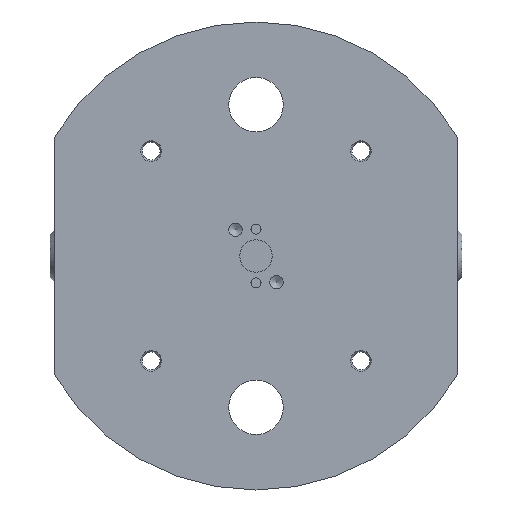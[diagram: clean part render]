
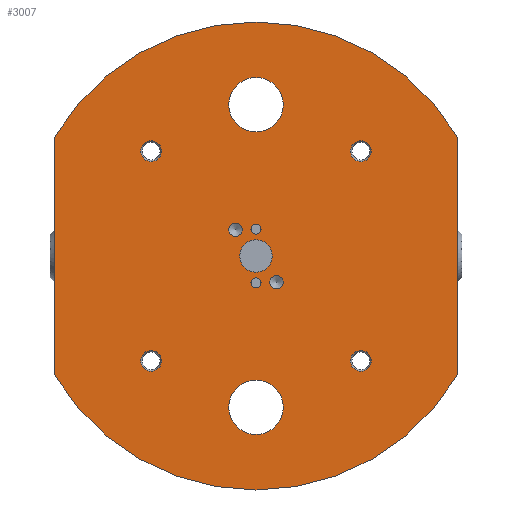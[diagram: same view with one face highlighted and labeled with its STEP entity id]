
A CAD part, front view. The second image highlights one B-rep face of the part: STEP entity #3007.
In plain terms, the highlighted planar face has unit normal (0, -1, 0).
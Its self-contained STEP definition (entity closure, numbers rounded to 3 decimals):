
#86 = CARTESIAN_POINT ( 'NONE',  ( 26., 0., 26. ) ) ;
#154 = CARTESIAN_POINT ( 'NONE',  ( -26., 0., 26. ) ) ;
#180 = EDGE_CURVE ( 'NONE', #7596, #7596, #5117, .T. ) ;
#273 = EDGE_LOOP ( 'NONE', ( #1496, #3865, #4658, #6841 ) ) ;
#367 = EDGE_CURVE ( 'NONE', #5221, #5221, #6874, .T. ) ;
#380 = AXIS2_PLACEMENT_3D ( 'NONE', #7181, #4214, #4794 ) ;
#423 = CIRCLE ( 'NONE', #6031, 58. ) ;
#435 = FACE_BOUND ( 'NONE', #3830, .T. ) ;
#446 = DIRECTION ( 'NONE',  ( 0., 0., 1. ) ) ;
#489 = CARTESIAN_POINT ( 'NONE',  ( -50., 0., 29.394 ) ) ;
#532 = AXIS2_PLACEMENT_3D ( 'NONE', #5798, #7503, #446 ) ;
#551 = VECTOR ( 'NONE', #3696, 1000. ) ;
#594 = FACE_BOUND ( 'NONE', #4416, .T. ) ;
#734 = ORIENTED_EDGE ( 'NONE', *, *, #5149, .T. ) ;
#739 = CARTESIAN_POINT ( 'NONE',  ( -26., 0., -26. ) ) ;
#773 = CARTESIAN_POINT ( 'NONE',  ( -5.08, 0., 4.857 ) ) ;
#782 = EDGE_CURVE ( 'NONE', #3944, #3944, #6490, .T. ) ;
#806 = EDGE_LOOP ( 'NONE', ( #6328 ) ) ;
#910 = EDGE_CURVE ( 'NONE', #2251, #2251, #3514, .T. ) ;
#975 = VERTEX_POINT ( 'NONE', #3199 ) ;
#1004 = DIRECTION ( 'NONE',  ( 0., -1., 0. ) ) ;
#1023 = EDGE_LOOP ( 'NONE', ( #4859 ) ) ;
#1069 = ORIENTED_EDGE ( 'NONE', *, *, #910, .T. ) ;
#1100 = DIRECTION ( 'NONE',  ( 0., 1., 0. ) ) ;
#1161 = EDGE_LOOP ( 'NONE', ( #734 ) ) ;
#1214 = EDGE_CURVE ( 'NONE', #2851, #975, #3881, .T. ) ;
#1215 = CARTESIAN_POINT ( 'NONE',  ( 0., 0., 37.5 ) ) ;
#1234 = ORIENTED_EDGE ( 'NONE', *, *, #7347, .F. ) ;
#1306 = CARTESIAN_POINT ( 'NONE',  ( 0., 0., -4.013 ) ) ;
#1318 = CARTESIAN_POINT ( 'NONE',  ( -50., 0., -31.75 ) ) ;
#1344 = DIRECTION ( 'NONE',  ( 0., 0., 1. ) ) ;
#1349 = EDGE_CURVE ( 'NONE', #6606, #975, #6656, .T. ) ;
#1468 = CARTESIAN_POINT ( 'NONE',  ( 0., 0., 44.246 ) ) ;
#1496 = ORIENTED_EDGE ( 'NONE', *, *, #1214, .F. ) ;
#1605 = FACE_BOUND ( 'NONE', #2871, .T. ) ;
#1623 = DIRECTION ( 'NONE',  ( 0., 0., 1. ) ) ;
#1639 = CARTESIAN_POINT ( 'NONE',  ( 0., 0., -30.754 ) ) ;
#1643 = FACE_BOUND ( 'NONE', #4095, .T. ) ;
#1726 = DIRECTION ( 'NONE',  ( 0., 0., 1. ) ) ;
#1757 = FACE_BOUND ( 'NONE', #6810, .T. ) ;
#1810 = VERTEX_POINT ( 'NONE', #4768 ) ;
#1910 = AXIS2_PLACEMENT_3D ( 'NONE', #154, #2577, #4918 ) ;
#2141 = DIRECTION ( 'NONE',  ( 0., -1., 0. ) ) ;
#2185 = FACE_OUTER_BOUND ( 'NONE', #273, .T. ) ;
#2251 = VERTEX_POINT ( 'NONE', #5097 ) ;
#2292 = CARTESIAN_POINT ( 'NONE',  ( 0., 0., 0. ) ) ;
#2335 = FACE_BOUND ( 'NONE', #806, .T. ) ;
#2426 = VERTEX_POINT ( 'NONE', #1306 ) ;
#2537 = AXIS2_PLACEMENT_3D ( 'NONE', #7330, #7183, #1623 ) ;
#2555 = CARTESIAN_POINT ( 'NONE',  ( 50., 0., -29.394 ) ) ;
#2577 = DIRECTION ( 'NONE',  ( 0., 1., 0. ) ) ;
#2584 = ORIENTED_EDGE ( 'NONE', *, *, #2830, .T. ) ;
#2690 = CARTESIAN_POINT ( 'NONE',  ( 0., 0., 7.917 ) ) ;
#2732 = CARTESIAN_POINT ( 'NONE',  ( 0., 0., 0. ) ) ;
#2754 = AXIS2_PLACEMENT_3D ( 'NONE', #6293, #3247, #4463 ) ;
#2826 = CARTESIAN_POINT ( 'NONE',  ( 50., 0., -31.75 ) ) ;
#2830 = EDGE_CURVE ( 'NONE', #6546, #6546, #3634, .T. ) ;
#2846 = DIRECTION ( 'NONE',  ( 0., 0., 1. ) ) ;
#2851 = VERTEX_POINT ( 'NONE', #2555 ) ;
#2871 = EDGE_LOOP ( 'NONE', ( #5419 ) ) ;
#2891 = CARTESIAN_POINT ( 'NONE',  ( 0., 0., 0. ) ) ;
#2906 = CIRCLE ( 'NONE', #2537, 1.25 ) ;
#3007 = ADVANCED_FACE ( 'NONE', ( #435, #3404, #1757, #594, #2335, #5855, #4134, #1643, #7031, #6515, #1605, #2185 ), #3564, .F. ) ;
#3034 = CIRCLE ( 'NONE', #1910, 2.591 ) ;
#3146 = CARTESIAN_POINT ( 'NONE',  ( 0., 0., -5.418 ) ) ;
#3199 = CARTESIAN_POINT ( 'NONE',  ( -50., 0., -29.394 ) ) ;
#3247 = DIRECTION ( 'NONE',  ( 0., 1., 0. ) ) ;
#3311 = EDGE_CURVE ( 'NONE', #7631, #7631, #4881, .T. ) ;
#3404 = FACE_BOUND ( 'NONE', #1161, .T. ) ;
#3476 = CARTESIAN_POINT ( 'NONE',  ( 26., 0., 28.591 ) ) ;
#3499 = DIRECTION ( 'NONE',  ( 0., 0., 1. ) ) ;
#3514 = CIRCLE ( 'NONE', #380, 2.591 ) ;
#3564 = PLANE ( 'NONE',  #7269 ) ;
#3634 = CIRCLE ( 'NONE', #4257, 2.591 ) ;
#3665 = CARTESIAN_POINT ( 'NONE',  ( -26., 0., 28.591 ) ) ;
#3696 = DIRECTION ( 'NONE',  ( 0., 0., -1. ) ) ;
#3830 = EDGE_LOOP ( 'NONE', ( #5800 ) ) ;
#3847 = CARTESIAN_POINT ( 'NONE',  ( -26., 0., -23.409 ) ) ;
#3865 = ORIENTED_EDGE ( 'NONE', *, *, #6884, .T. ) ;
#3877 = AXIS2_PLACEMENT_3D ( 'NONE', #5786, #2141, #7598 ) ;
#3881 = CIRCLE ( 'NONE', #6246, 58. ) ;
#3944 = VERTEX_POINT ( 'NONE', #6942 ) ;
#4073 = ORIENTED_EDGE ( 'NONE', *, *, #782, .F. ) ;
#4095 = EDGE_LOOP ( 'NONE', ( #4073 ) ) ;
#4134 = FACE_BOUND ( 'NONE', #1023, .T. ) ;
#4214 = DIRECTION ( 'NONE',  ( 0., 1., 0. ) ) ;
#4257 = AXIS2_PLACEMENT_3D ( 'NONE', #86, #5478, #1344 ) ;
#4289 = VERTEX_POINT ( 'NONE', #3665 ) ;
#4355 = EDGE_CURVE ( 'NONE', #4289, #4289, #3034, .T. ) ;
#4401 = EDGE_CURVE ( 'NONE', #4822, #4822, #2906, .T. ) ;
#4416 = EDGE_LOOP ( 'NONE', ( #2584 ) ) ;
#4463 = DIRECTION ( 'NONE',  ( 0., 0., 1. ) ) ;
#4602 = CARTESIAN_POINT ( 'NONE',  ( 0., 0., 0. ) ) ;
#4618 = LINE ( 'NONE', #2826, #7013 ) ;
#4633 = DIRECTION ( 'NONE',  ( 0., 0., -1. ) ) ;
#4658 = ORIENTED_EDGE ( 'NONE', *, *, #5131, .F. ) ;
#4675 = DIRECTION ( 'NONE',  ( 0., 1., 0. ) ) ;
#4768 = CARTESIAN_POINT ( 'NONE',  ( 50., 0., 29.394 ) ) ;
#4794 = DIRECTION ( 'NONE',  ( 0., 0., 1. ) ) ;
#4822 = VERTEX_POINT ( 'NONE', #3146 ) ;
#4859 = ORIENTED_EDGE ( 'NONE', *, *, #3311, .F. ) ;
#4878 = CIRCLE ( 'NONE', #7126, 2.591 ) ;
#4881 = CIRCLE ( 'NONE', #6252, 1.65 ) ;
#4918 = DIRECTION ( 'NONE',  ( 0., 0., 1. ) ) ;
#5019 = DIRECTION ( 'NONE',  ( 0., 1., 0. ) ) ;
#5097 = CARTESIAN_POINT ( 'NONE',  ( 26., 0., -23.409 ) ) ;
#5106 = DIRECTION ( 'NONE',  ( 0., -1., 0. ) ) ;
#5117 = CIRCLE ( 'NONE', #2754, 6.746 ) ;
#5131 = EDGE_CURVE ( 'NONE', #6606, #1810, #423, .T. ) ;
#5149 = EDGE_CURVE ( 'NONE', #7434, #7434, #7036, .T. ) ;
#5221 = VERTEX_POINT ( 'NONE', #2690 ) ;
#5229 = DIRECTION ( 'NONE',  ( 0., 0., 1. ) ) ;
#5419 = ORIENTED_EDGE ( 'NONE', *, *, #367, .T. ) ;
#5478 = DIRECTION ( 'NONE',  ( 0., 1., 0. ) ) ;
#5481 = EDGE_CURVE ( 'NONE', #5600, #5600, #4878, .T. ) ;
#5600 = VERTEX_POINT ( 'NONE', #3847 ) ;
#5774 = CARTESIAN_POINT ( 'NONE',  ( -5.08, 0., 6.507 ) ) ;
#5786 = CARTESIAN_POINT ( 'NONE',  ( 5.08, 0., -6.507 ) ) ;
#5798 = CARTESIAN_POINT ( 'NONE',  ( 0., 0., 6.667 ) ) ;
#5800 = ORIENTED_EDGE ( 'NONE', *, *, #180, .T. ) ;
#5823 = EDGE_LOOP ( 'NONE', ( #5838 ) ) ;
#5838 = ORIENTED_EDGE ( 'NONE', *, *, #5481, .T. ) ;
#5855 = FACE_BOUND ( 'NONE', #5823, .T. ) ;
#6026 = ORIENTED_EDGE ( 'NONE', *, *, #4401, .T. ) ;
#6031 = AXIS2_PLACEMENT_3D ( 'NONE', #2891, #1100, #5229 ) ;
#6075 = DIRECTION ( 'NONE',  ( 0., 0., 1. ) ) ;
#6139 = CIRCLE ( 'NONE', #6394, 4.013 ) ;
#6152 = AXIS2_PLACEMENT_3D ( 'NONE', #1215, #7606, #1726 ) ;
#6246 = AXIS2_PLACEMENT_3D ( 'NONE', #2292, #4675, #6461 ) ;
#6252 = AXIS2_PLACEMENT_3D ( 'NONE', #5774, #1004, #4633 ) ;
#6293 = CARTESIAN_POINT ( 'NONE',  ( 0., 0., -37.5 ) ) ;
#6328 = ORIENTED_EDGE ( 'NONE', *, *, #4355, .T. ) ;
#6394 = AXIS2_PLACEMENT_3D ( 'NONE', #2732, #5106, #7498 ) ;
#6461 = DIRECTION ( 'NONE',  ( 0., 0., 1. ) ) ;
#6490 = CIRCLE ( 'NONE', #3877, 1.65 ) ;
#6515 = FACE_BOUND ( 'NONE', #6679, .T. ) ;
#6538 = EDGE_LOOP ( 'NONE', ( #1234 ) ) ;
#6546 = VERTEX_POINT ( 'NONE', #3476 ) ;
#6606 = VERTEX_POINT ( 'NONE', #489 ) ;
#6656 = LINE ( 'NONE', #1318, #551 ) ;
#6679 = EDGE_LOOP ( 'NONE', ( #6026 ) ) ;
#6810 = EDGE_LOOP ( 'NONE', ( #1069 ) ) ;
#6841 = ORIENTED_EDGE ( 'NONE', *, *, #1349, .T. ) ;
#6874 = CIRCLE ( 'NONE', #532, 1.25 ) ;
#6884 = EDGE_CURVE ( 'NONE', #2851, #1810, #4618, .T. ) ;
#6942 = CARTESIAN_POINT ( 'NONE',  ( 5.08, 0., -8.157 ) ) ;
#7013 = VECTOR ( 'NONE', #3499, 1000. ) ;
#7031 = FACE_BOUND ( 'NONE', #6538, .T. ) ;
#7036 = CIRCLE ( 'NONE', #6152, 6.746 ) ;
#7126 = AXIS2_PLACEMENT_3D ( 'NONE', #739, #5019, #6075 ) ;
#7181 = CARTESIAN_POINT ( 'NONE',  ( 26., 0., -26. ) ) ;
#7183 = DIRECTION ( 'NONE',  ( 0., 1., 0. ) ) ;
#7269 = AXIS2_PLACEMENT_3D ( 'NONE', #4602, #7564, #2846 ) ;
#7330 = CARTESIAN_POINT ( 'NONE',  ( 0., 0., -6.667 ) ) ;
#7347 = EDGE_CURVE ( 'NONE', #2426, #2426, #6139, .T. ) ;
#7434 = VERTEX_POINT ( 'NONE', #1468 ) ;
#7498 = DIRECTION ( 'NONE',  ( 0., 0., -1. ) ) ;
#7503 = DIRECTION ( 'NONE',  ( 0., 1., 0. ) ) ;
#7564 = DIRECTION ( 'NONE',  ( 0., 1., 0. ) ) ;
#7596 = VERTEX_POINT ( 'NONE', #1639 ) ;
#7598 = DIRECTION ( 'NONE',  ( 0., 0., -1. ) ) ;
#7606 = DIRECTION ( 'NONE',  ( 0., 1., 0. ) ) ;
#7631 = VERTEX_POINT ( 'NONE', #773 ) ;
